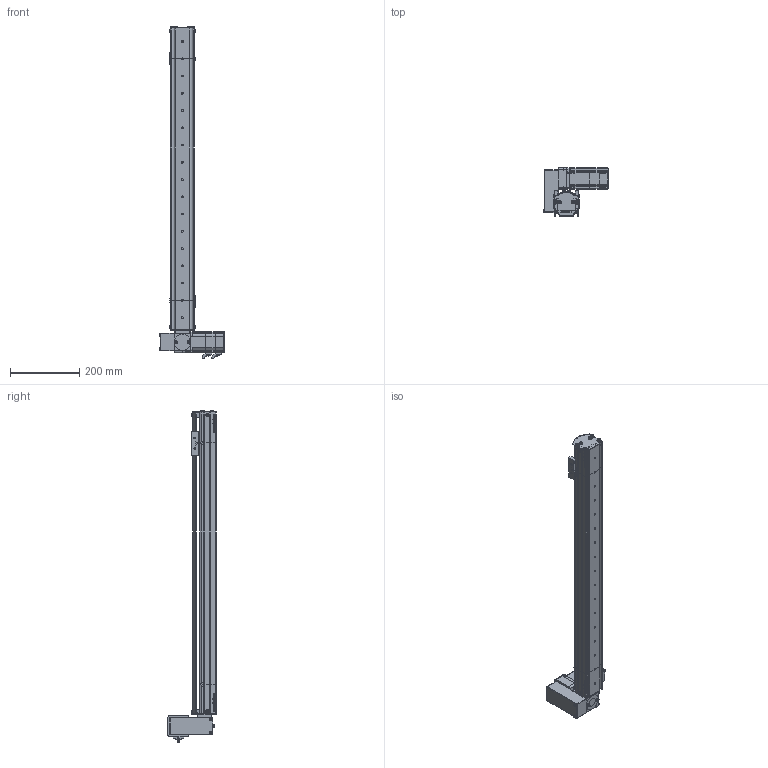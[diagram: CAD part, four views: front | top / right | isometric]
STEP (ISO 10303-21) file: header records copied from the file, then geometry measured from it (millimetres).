
FILE_DESCRIPTION (( 'STEP AP214' ), '1' );
FILE_NAME ('S07 TBN RT S700.STEP', '2010-06-29T11:36:03', ( 'Conseil Régional Haute-Normandie' ), ( 'Conseil Régional Haute-Normandie' ), 'SwSTEP 2.0', 'SolidWorks 2010', '' );
FILE_SCHEMA (( 'AUTOMOTIVE_DESIGN' ));
Length unit declared in the file: millimetre
Products named in the file (41): cache t皻e axe_Default; P1_Default; GMB 60 90 310_Default; Pièce5^S07 RT(146); vis M5 L5_Default; cache t皻e_Default; renvoi RT_Default; Plaque racord_Default; Couroie t皻e_Default; Poulie head_Default; vis M5 L16_Default; Chariot; guide; CHariot_Default; couroie tail_Default; vis M5 L12_Default; couvercle tail TB; plaque de bout_Default; corp tail TB_Default; Poulie_Default; T皻e de poulie_Default; Vis M5 L16-2_Default; Cvis M5 L30_Default; S07 TB tail (78)_Default; Axe 60BLDC_Default; P4_Default; P3 90A_Default; VisM3_Default; Conecteur2 60BLDC_Default; Conecteur 60BLDC_Default; P2 90A_Default; Corp S07 course 700_Default; Course C L700_Default; S07 TBN RT S700; S07 RT(146)_Default; couvercle S07 course 700 ; Couroie  course 700_Default; couvercle moteur S07 TB; plaque de bout RT_Default; corp moteur TB(146)_Default
Assembly tree (80 placements, depth 4):
  Pièce5^S07 RT(146)
  S07 TBN RT S700
    S07 RT(146)_Default
      Couroie t皻e_Default
      cache t皻e_Default  x2
      Vis M5 L16-2_Default  x8
      vis M5 L12_Default  x6
      corp moteur TB(146)_Default
      vis M5 L5_Default  x6
      renvoi RT_Default
      GMB 60 90 310_Default
        VisM3_Default  x12
        P1_Default
        Conecteur2 60BLDC_Default
        Conecteur 60BLDC_Default
        Axe 60BLDC_Default
        P2 90A_Default
        P3 90A_Default
        P4_Default
      plaque de bout RT_Default
      Cvis M5 L30_Default  x2
      Poulie head_Default
      cache t皻e axe_Default
      couvercle moteur S07 TB
      Plaque racord_Default
    CHariot_Default
      vis M5 L16_Default  x2
      guide
      Chariot
    S07 TB tail (78)_Default
      vis M5 L12_Default  x10
      corp tail TB_Default
      plaque de bout_Default
      couvercle tail TB
      couroie tail_Default
      Poulie_Default
        T皻e de poulie_Default
        Poulie_Default
    Course C L700_Default
      Corp S07 course 700_Default
      Couroie  course 700_Default
      couvercle S07 course 700 
Bounding box: 190.2 x 139.5 x 962 mm (x, y, z)
Volume: 2190019.2 mm3; surface area: 908095.5 mm2
Topology: 102 solids, 102 shells, 3916 faces, 9756 edges, 6301 vertices
Faces by surface type: plane 2228, cylinder 758, bspline 677, cone 125, torus 124, sphere 4
Entity records: 167029 total; most frequent: CARTESIAN_POINT 75167, ORIENTED_EDGE 15424, DIRECTION 12259, EDGE_CURVE 7712, VERTEX_POINT 5089, VECTOR 5041, LINE 5041, AXIS2_PLACEMENT_3D 3609
